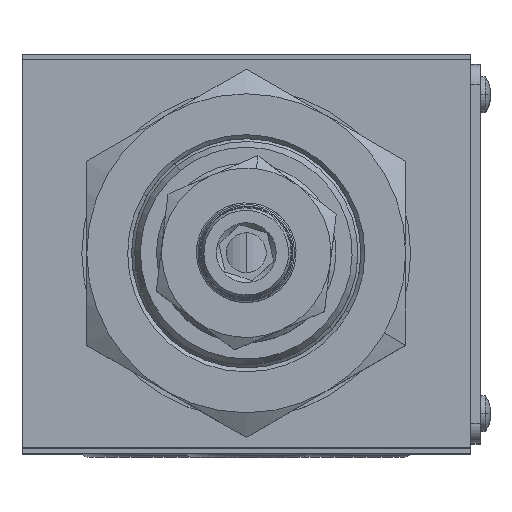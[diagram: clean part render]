
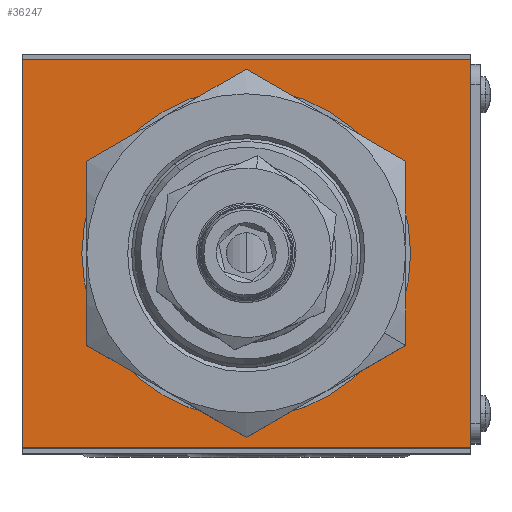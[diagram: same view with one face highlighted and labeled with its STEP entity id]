
A CAD part, top view. The second image highlights one B-rep face of the part: STEP entity #36247.
In plain terms, the highlighted planar face has unit normal (0, 0, 1).
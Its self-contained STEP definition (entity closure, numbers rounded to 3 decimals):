
#306 = ORIENTED_EDGE ( 'NONE', *, *, #6675, .F. ) ;
#321 = DIRECTION ( 'NONE',  ( 0., 0., 1. ) ) ;
#1481 = EDGE_LOOP ( 'NONE', ( #31350, #40906, #306, #28376 ) ) ;
#2704 = ORIENTED_EDGE ( 'NONE', *, *, #47693, .F. ) ;
#5247 = DIRECTION ( 'NONE',  ( 1., 0., 0. ) ) ;
#6675 = EDGE_CURVE ( 'NONE', #43804, #8373, #39502, .T. ) ;
#7191 = CARTESIAN_POINT ( 'NONE',  ( -22.5, -19.5, 47.5 ) ) ;
#7413 = CARTESIAN_POINT ( 'NONE',  ( 22.5, 19.5, 47.5 ) ) ;
#8316 = ORIENTED_EDGE ( 'NONE', *, *, #23538, .F. ) ;
#8373 = VERTEX_POINT ( 'NONE', #7413 ) ;
#8756 = EDGE_CURVE ( 'NONE', #20509, #36663, #18636, .T. ) ;
#9626 = CARTESIAN_POINT ( 'NONE',  ( 22.5, -19.5, 47.5 ) ) ;
#10771 = DIRECTION ( 'NONE',  ( 0., -1., 0. ) ) ;
#16224 = AXIS2_PLACEMENT_3D ( 'NONE', #43450, #17148, #47831 ) ;
#16257 = FACE_BOUND ( 'NONE', #35975, .T. ) ;
#16388 = AXIS2_PLACEMENT_3D ( 'NONE', #20506, #51233, #24876 ) ;
#17148 = DIRECTION ( 'NONE',  ( 0., 0., 1. ) ) ;
#17271 = VECTOR ( 'NONE', #56178, 1000. ) ;
#18636 = LINE ( 'NONE', #51763, #17271 ) ;
#20506 = CARTESIAN_POINT ( 'NONE',  ( -22.5, -20., 47.5 ) ) ;
#20509 = VERTEX_POINT ( 'NONE', #9626 ) ;
#21406 = VERTEX_POINT ( 'NONE', #37993 ) ;
#23538 = EDGE_CURVE ( 'NONE', #24968, #21406, #35799, .T. ) ;
#24876 = DIRECTION ( 'NONE',  ( 1., 0., 0. ) ) ;
#24968 = VERTEX_POINT ( 'NONE', #42892 ) ;
#25435 = CARTESIAN_POINT ( 'NONE',  ( -22.5, 19.5, 47.5 ) ) ;
#26700 = CARTESIAN_POINT ( 'NONE',  ( 0., 0., 47.5 ) ) ;
#28376 = ORIENTED_EDGE ( 'NONE', *, *, #47865, .T. ) ;
#31127 = DIRECTION ( 'NONE',  ( 1., 0., 0. ) ) ;
#31350 = ORIENTED_EDGE ( 'NONE', *, *, #8756, .F. ) ;
#31595 = CARTESIAN_POINT ( 'NONE',  ( -22.5, 19.5, 47.5 ) ) ;
#33157 = EDGE_CURVE ( 'NONE', #20509, #8373, #33797, .T. ) ;
#33551 = PLANE ( 'NONE',  #16388 ) ;
#33797 = LINE ( 'NONE', #38463, #55811 ) ;
#34054 = FACE_OUTER_BOUND ( 'NONE', #1481, .T. ) ;
#34769 = LINE ( 'NONE', #54562, #43709 ) ;
#35799 = CIRCLE ( 'NONE', #16224, 16.5 ) ;
#35975 = EDGE_LOOP ( 'NONE', ( #8316, #2704 ) ) ;
#36247 = ADVANCED_FACE ( 'NONE', ( #16257, #34054 ), #33551, .T. ) ;
#36663 = VERTEX_POINT ( 'NONE', #7191 ) ;
#37993 = CARTESIAN_POINT ( 'NONE',  ( -16.5, 0., 47.5 ) ) ;
#38126 = VECTOR ( 'NONE', #5247, 1000. ) ;
#38237 = CIRCLE ( 'NONE', #39430, 16.5 ) ;
#38463 = CARTESIAN_POINT ( 'NONE',  ( 22.5, 20., 47.5 ) ) ;
#39430 = AXIS2_PLACEMENT_3D ( 'NONE', #26700, #321, #31127 ) ;
#39502 = LINE ( 'NONE', #31595, #38126 ) ;
#40906 = ORIENTED_EDGE ( 'NONE', *, *, #33157, .T. ) ;
#42892 = CARTESIAN_POINT ( 'NONE',  ( 16.5, 0., 47.5 ) ) ;
#42923 = DIRECTION ( 'NONE',  ( 0., 1., 0. ) ) ;
#43450 = CARTESIAN_POINT ( 'NONE',  ( 0., 0., 47.5 ) ) ;
#43709 = VECTOR ( 'NONE', #10771, 1000. ) ;
#43804 = VERTEX_POINT ( 'NONE', #25435 ) ;
#47693 = EDGE_CURVE ( 'NONE', #21406, #24968, #38237, .T. ) ;
#47831 = DIRECTION ( 'NONE',  ( 1., 0., 0. ) ) ;
#47865 = EDGE_CURVE ( 'NONE', #43804, #36663, #34769, .T. ) ;
#51233 = DIRECTION ( 'NONE',  ( 0., 0., 1. ) ) ;
#51763 = CARTESIAN_POINT ( 'NONE',  ( -22.5, -19.5, 47.5 ) ) ;
#54562 = CARTESIAN_POINT ( 'NONE',  ( -22.5, 20., 47.5 ) ) ;
#55811 = VECTOR ( 'NONE', #42923, 1000. ) ;
#56178 = DIRECTION ( 'NONE',  ( -1., 0., 0. ) ) ;
